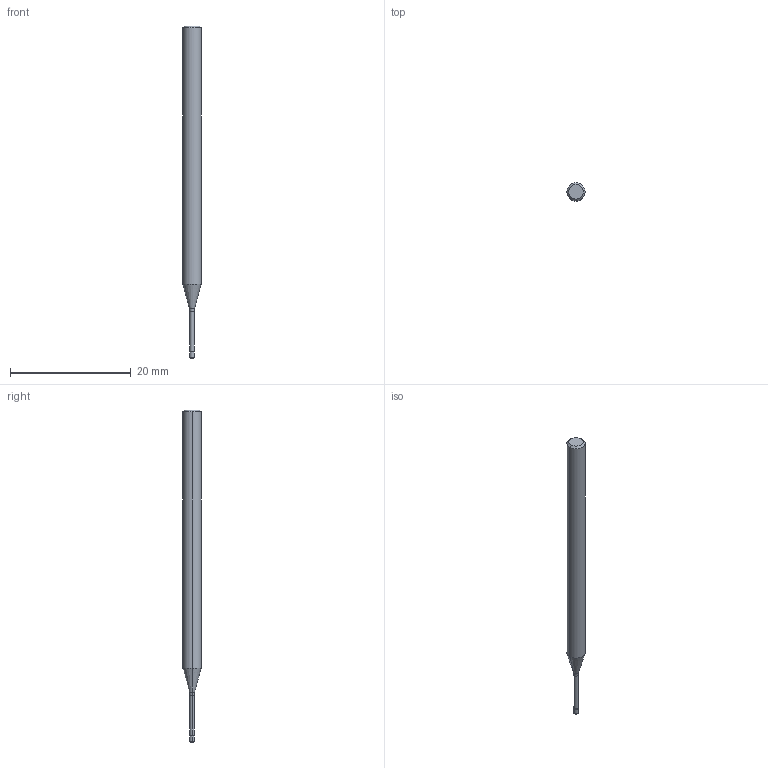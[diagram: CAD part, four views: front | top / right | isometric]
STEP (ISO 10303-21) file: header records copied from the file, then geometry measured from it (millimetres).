
FILE_DESCRIPTION (( 'STEP AP214' ), '1' );
FILE_NAME ('560.081.75_3D-model.step', '2022-02-18T15:45:31', ( '' ), ( '' ), 'SwSTEP 2.0', 'SolidWorks 2020', '' );
FILE_SCHEMA (( 'AUTOMOTIVE_DESIGN' ));
Length unit declared in the file: millimetre
Products named in the file (3): NOCUT-3D^Baugr26; 560.081.75_3D-model; CUT-3D^Baugr26
Assembly tree (2 placements, depth 2):
  560.081.75_3D-model
    CUT-3D^Baugr26
    NOCUT-3D^Baugr26
Bounding box: 3 x 3 x 55 mm (x, y, z)
Volume: 318.7 mm3; surface area: 454.7 mm2
Topology: 2 solids, 2 shells, 20 faces, 36 edges, 20 vertices
Faces by surface type: cylinder 6, cone 6, torus 4, plane 4
Entity records: 610 total; most frequent: DIRECTION 116, CARTESIAN_POINT 84, ORIENTED_EDGE 72, AXIS2_PLACEMENT_3D 52, EDGE_CURVE 36, CIRCLE 24, FACE_OUTER_BOUND 20, ADVANCED_FACE 20
